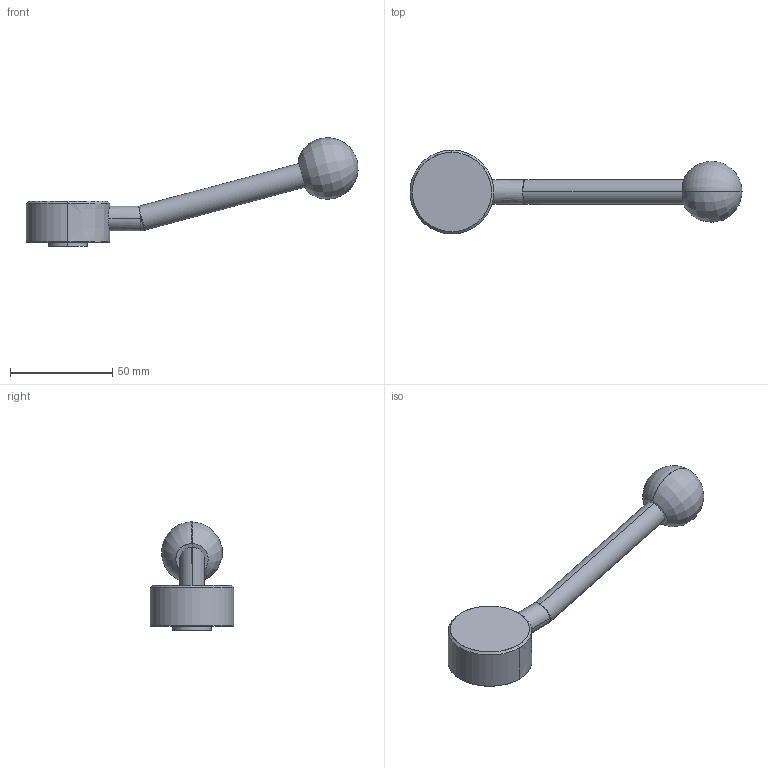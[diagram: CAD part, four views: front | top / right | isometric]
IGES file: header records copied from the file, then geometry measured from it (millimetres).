
Start section: SolidWorks IGES file using analytic representation for surfaces
Global section: file name: X:\11_SW2020-Inv2020\00_全2021-11新製品まで\f\FTFB10\ftfb10.IGS; native system: SolidWorks 2020; preprocessor: SolidWorks 2020; author: ImaoCorp; date: 211026.092250; units: millimetre
Bounding box: 162.47 x 41 x 53.01 mm (x, y, z)
Surface area: 12159.5 mm2 (no closed solid volume)
Topology: 0 solids, 0 shells, 26 faces, 452 edges, 451 vertices
Faces by surface type: revolution 22, bspline 4
